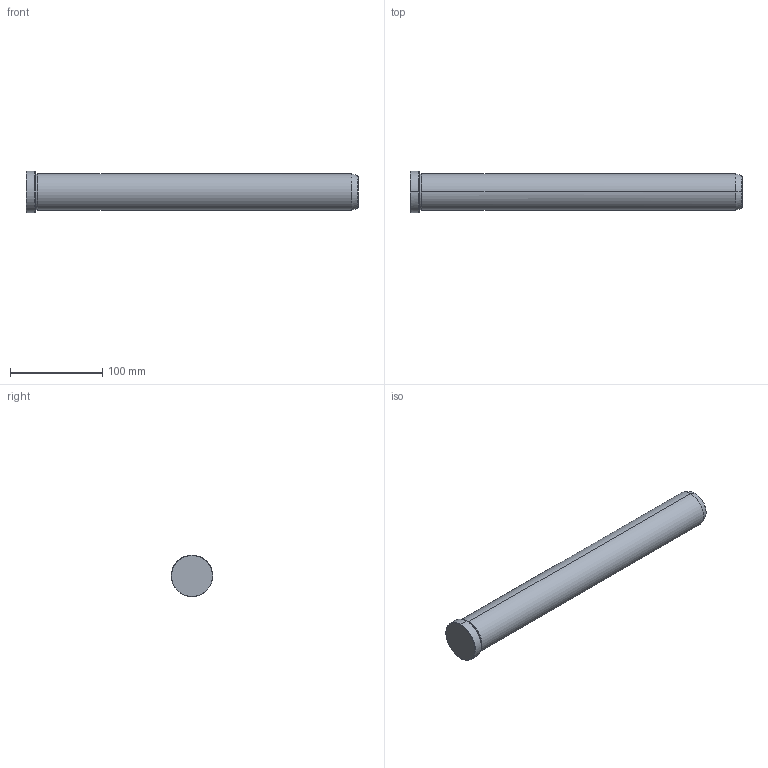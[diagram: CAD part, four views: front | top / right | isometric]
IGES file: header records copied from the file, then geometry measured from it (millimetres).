
Start section: START RECORD GO HERE.
Global section: file name: 549-40X360.igs; native system: DASSAULT SYSTEMES CATIA V5 R20 - www.3ds.com; preprocessor: CATIA Version 5 Release 20 ; author: Utente; organization: NB04-ASUS; date: 20211218.091144; units: millimetre
Bounding box: 360 x 45 x 45 mm (x, y, z)
Surface area: 48252 mm2 (no closed solid volume)
Topology: 0 solids, 0 shells, 19 faces, 112 edges, 112 vertices
Faces by surface type: revolution 16, plane 3
